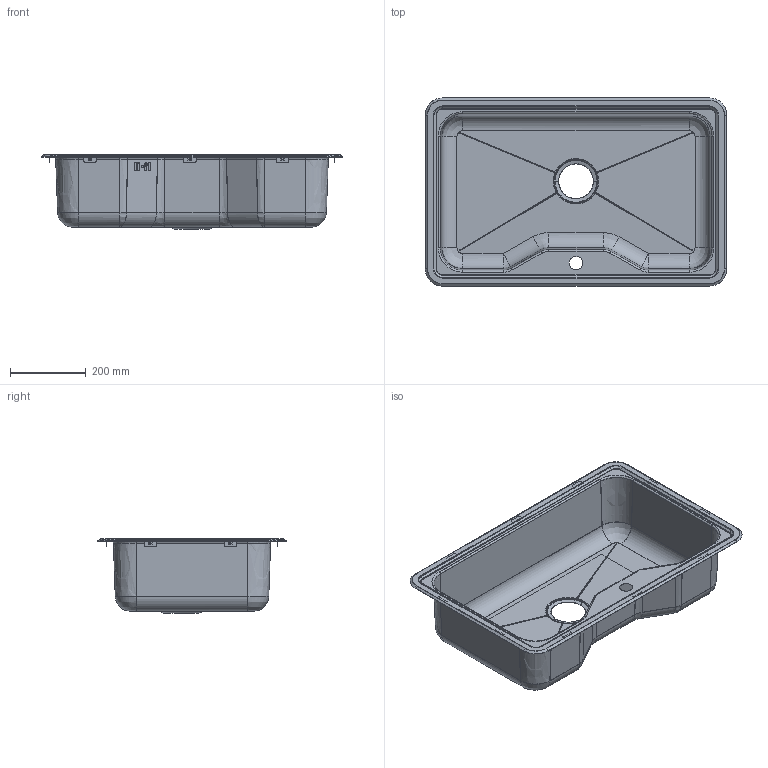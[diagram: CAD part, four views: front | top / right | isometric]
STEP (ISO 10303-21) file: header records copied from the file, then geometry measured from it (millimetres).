
FILE_DESCRIPTION(('CATIA V5 STEP Exchange'),'2;1');
FILE_NAME('\\sr02\Apell\Disegni\DISEGNI\LAVELLI\Criteria\STP\CR800IBC.stp','2016-07-13T11:21:22+00:00',('none'),('none'),'CATIA Version 5-6 Release 2014','CATIA V5 STEP AP203','none');
FILE_SCHEMA(('CONFIG_CONTROL_DESIGN'));
Length unit declared in the file: millimetre
Products named in the file (1): assieme
Assembly tree (12 placements, depth 2):
  assieme
    #57
    #29678  x10
    #30454
Bounding box: 797.76 x 497.76 x 195.78 mm (x, y, z)
Volume: 819161.6 mm3; surface area: 1732548.3 mm2
Topology: 12 solids, 12 shells, 594 faces, 1362 edges, 800 vertices
Faces by surface type: plane 244, bspline 176, cylinder 174
Entity records: 30659 total; most frequent: CARTESIAN_POINT 23279, ORIENTED_EDGE 1780, EDGE_CURVE 890, DIRECTION 883, VERTEX_POINT 512, B_SPLINE_CURVE_WITH_KNOTS 481, EDGE_LOOP 426, ADVANCED_FACE 396
